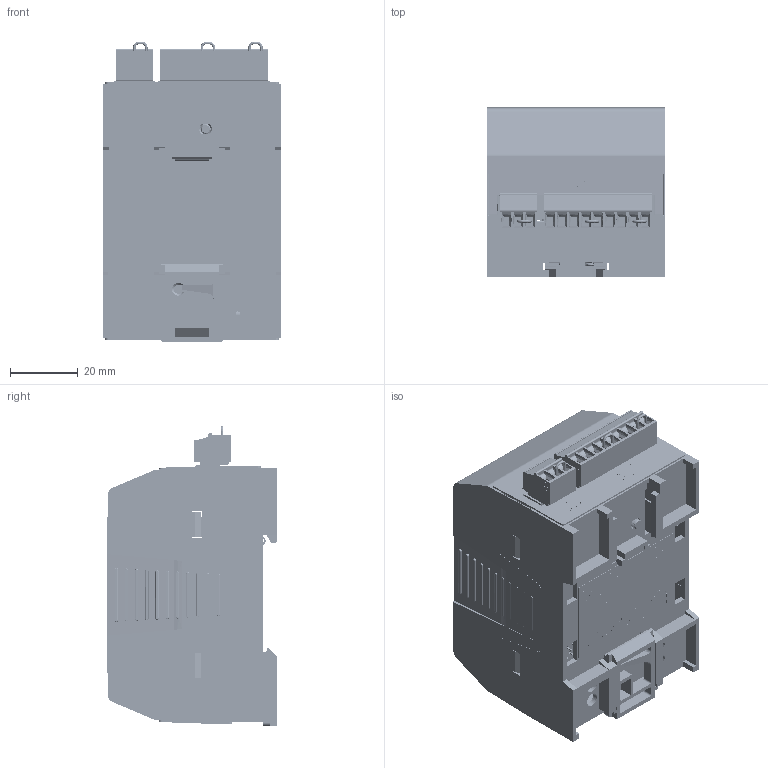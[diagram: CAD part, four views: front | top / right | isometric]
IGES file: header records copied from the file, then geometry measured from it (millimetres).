
Start section: SolidWorks IGES file using analytic representation for surfaces
Global section: file name: C:\0_Work\SolidWorks\~00_HI 6200 Series\HI6200-WP-10-EIP-000.IGS; native system: SolidWorks 2017; preprocessor: SolidWorks 2017; author: vach01; date: 190215.142444; units: millimetre
Bounding box: 52.6 x 50.23 x 88.43 mm (x, y, z)
Surface area: 97965.5 mm2 (no closed solid volume)
Topology: 0 solids, 0 shells, 9282 faces, 71262 edges, 71245 vertices
Faces by surface type: bspline 7888, revolution 1394
